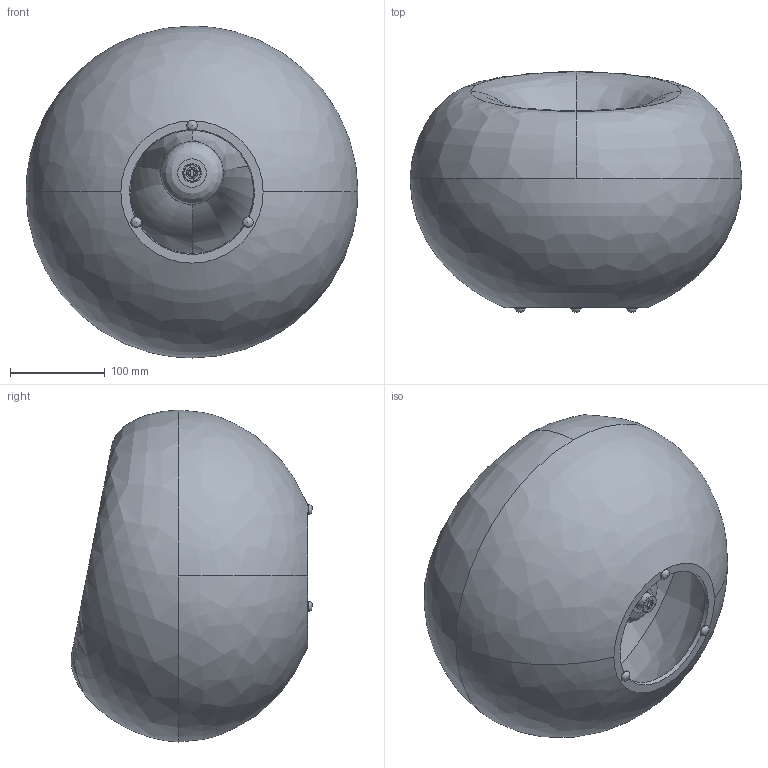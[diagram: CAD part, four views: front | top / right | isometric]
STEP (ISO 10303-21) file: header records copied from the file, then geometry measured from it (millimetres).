
FILE_DESCRIPTION(/* description */ (''),/* implementation_level */ '2;1');
FILE_NAME(/* name */ 'R:\Tecnico\_NEW TECNICO CLANN\PROGETTI DI SERIE\S21-011 LIGHTBODY\Studi\00457MT0AT0.stp',/* time_stamp */ '2021-09-06T11:41:59+02:00',/* author */ ('ruggero.dipaola'),/* organization */ (''),/* preprocessor_version */ 'ST-DEVELOPER v18.1',/* originating_system */ 'Autodesk Inventor 2020',/* authorisation */ '');
FILE_SCHEMA (('AUTOMOTIVE_DESIGN { 1 0 10303 214 3 1 1 }'));
Length unit declared in the file: millimetre
Products named in the file (11): 00457MT0AT0; 00457C001; PIEDINO IN SILICONE NERO. D.11.2 sj5003; RONDELLA IN PA6 NATURALE ØINT10,5 - ØEST 20 - 
SP2; DADO M10x1 H2 ZINCATO; TIGE M10X1 L25mm; Portalampada E27 + Cappello M10x1 a scatto; COPRI PTL E26; BOCCOLA COPRIDADO M10X1; BLOCCAFILI PER PORTALAMPADE 5970 27; LAMPADINA E27 PER ISTRUZIONI DI MONTAGGIO
Assembly tree (13 placements, depth 2):
  00457MT0AT0
    00457C001
    PIEDINO IN SILICONE NERO. D.11.2 sj5003  x3
    RONDELLA IN PA6 NATURALE ØINT10,5 - ØEST 20 - 
SP2  x2
    DADO M10x1 H2 ZINCATO
    TIGE M10X1 L25mm
    Portalampada E27 + Cappello M10x1 a scatto
    COPRI PTL E26
    BOCCOLA COPRIDADO M10X1
    BLOCCAFILI PER PORTALAMPADE 5970 27
    LAMPADINA E27 PER ISTRUZIONI DI MONTAGGIO
Bounding box: 350 x 254.56 x 350 mm (x, y, z)
Volume: 2927493.9 mm3; surface area: 736669.1 mm2
Topology: 14 solids, 14 shells, 209 faces, 554 edges, 376 vertices
Faces by surface type: plane 97, cylinder 65, bspline 25, torus 17, cone 4, sphere 1
Full cylindrical faces by diameter (mm): 7 x1, 8.917 x1, 9 x1, 10 x3, 10.5 x3, 11.2 x3, 12 x1, 17 x1, 19 x1, 20 x2, 21.6 x1, 23 x1, 25 x1, 25.6 x1, 27 x1, 30 x1, 36 x1, 37 x2, 40 x1, 40.5 x1, 42.1 x1, 50 x1, 66 x1
Entity records: 13236 total; most frequent: CARTESIAN_POINT 7661, DIRECTION 1129, ORIENTED_EDGE 1050, EDGE_CURVE 525, AXIS2_PLACEMENT_3D 463, VERTEX_POINT 358, CIRCLE 262, EDGE_LOOP 225
